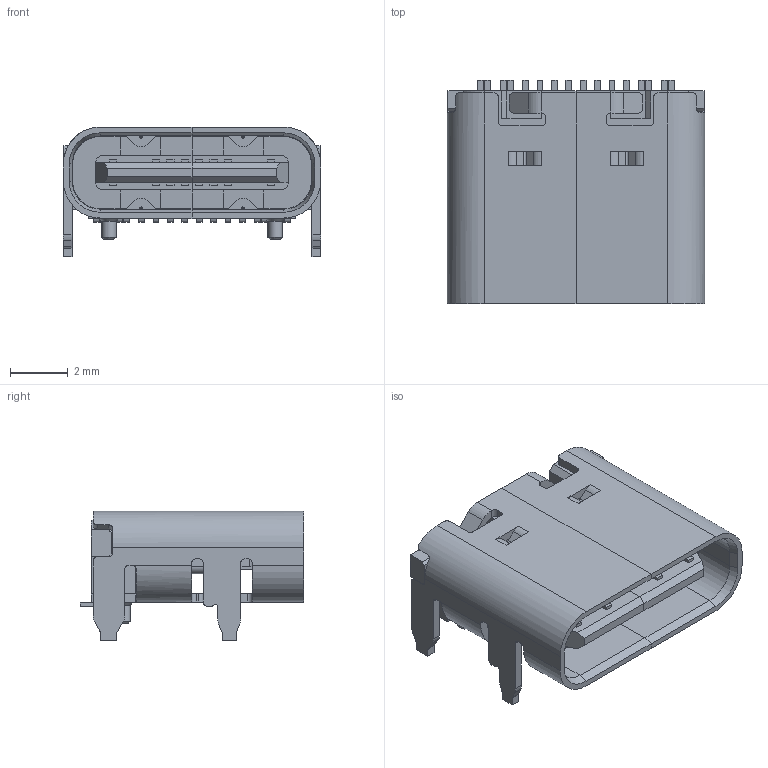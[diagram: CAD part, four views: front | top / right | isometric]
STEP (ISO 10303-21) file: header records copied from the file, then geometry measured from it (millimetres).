
FILE_DESCRIPTION(('FreeCAD Model'),'2;1');
FILE_NAME('Open CASCADE Shape Model','2026-11-12T17:18:05',('FreeCAD'),( 'FreeCAD'),'Open CASCADE STEP processor 7.8','FreeCAD','Unknown');
FILE_SCHEMA(('AUTOMOTIVE_DESIGN { 1 0 10303 214 1 1 1 1 }'));
Length unit declared in the file: millimetre
Products named in the file (1): Open CASCADE STEP translator 7.8 1
Bounding box: 8.94 x 7.78 x 4.51 mm (x, y, z)
Volume: 120 mm3; surface area: 537.2 mm2
Topology: 36 solids, 36 shells, 560 faces, 1442 edges, 944 vertices
Faces by surface type: plane 420, cylinder 132, cone 8
Full cylindrical faces by diameter (mm): 0.5 x2
Entity records: 16936 total; most frequent: CARTESIAN_POINT 3051, ORIENTED_EDGE 2884, DIRECTION 2838, EDGE_CURVE 1442, LINE 1144, VECTOR 1144, VERTEX_POINT 944, AXIS2_PLACEMENT_3D 847
